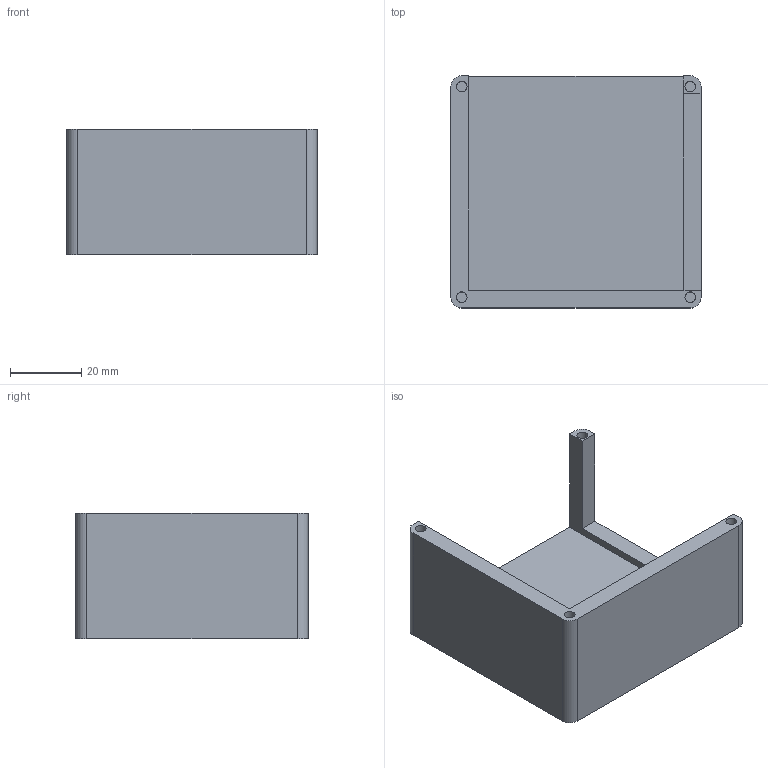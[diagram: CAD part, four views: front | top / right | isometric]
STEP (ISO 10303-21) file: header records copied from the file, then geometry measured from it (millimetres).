
FILE_DESCRIPTION(('HOOPS Exchange Step'),'2;1');
FILE_NAME('/private/var/mobile/Containers/Data/Application/D3E076ED-DCB3-4951-9F90-31514E928BEC/tmp/export/temp_export','2025-07-16T18:07:48-04:00',('mobile'),('Shapr3D Limited'),'HOOPS Exchange 2024.8','Shapr3D','Authorized');
FILE_SCHEMA( ('AP242_MANAGED_MODEL_BASED_3D_ENGINEERING_MIM_LF {1 0 10303 442 1 1 4}') );
Length unit declared in the file: millimetre
Products named in the file (1): bottom pannel
Bounding box: 70 x 65 x 35 mm (x, y, z)
Volume: 34681.4 mm3; surface area: 20325.3 mm2
Topology: 1 solids, 1 shells, 25 faces, 57 edges, 38 vertices
Faces by surface type: plane 17, cylinder 8
Full cylindrical faces by diameter (mm): 3 x4
Entity records: 743 total; most frequent: DIRECTION 127, CARTESIAN_POINT 122, ORIENTED_EDGE 114, EDGE_CURVE 57, AXIS2_PLACEMENT_3D 43, VECTOR 41, LINE 41, VERTEX_POINT 38
